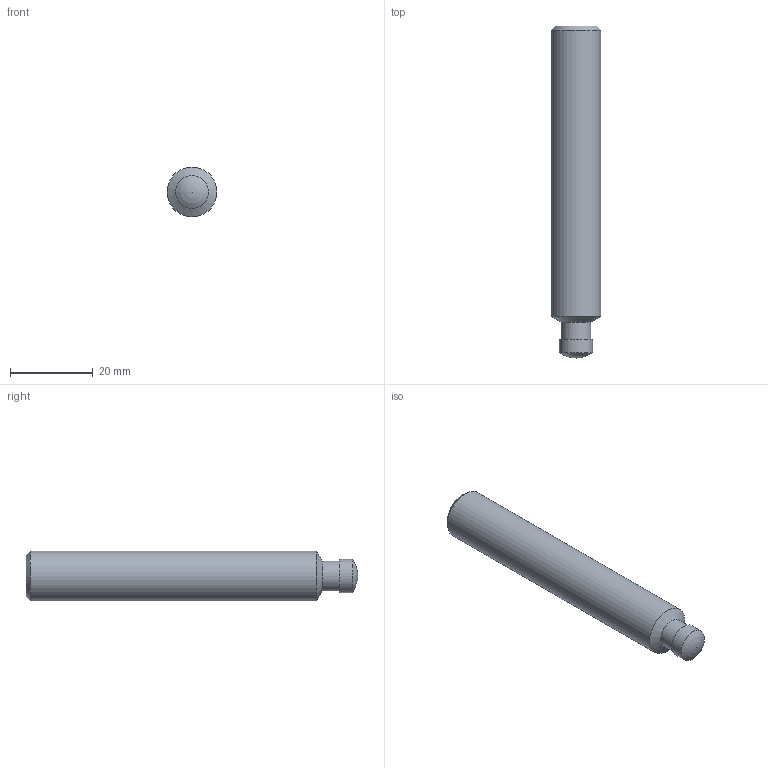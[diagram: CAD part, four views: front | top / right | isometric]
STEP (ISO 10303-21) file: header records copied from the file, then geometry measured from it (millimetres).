
FILE_DESCRIPTION( ( 'STEP AP203' ), '1' );
FILE_NAME( 'C:/Temp/Ganter_Step_05_03_2020/data/3_2/din6332/din6332_zb/Grub screw DIN 6332-M12-80-SKN-ZB.stp', '2020-03-13T05:16:36', ( 'License CC BY-ND 4.0' ), ( 'CADENAS' ), ' ', 'PARTsolutions', ' ' );
FILE_SCHEMA( ( 'CONFIG_CONTROL_DESIGN' ) );
Length unit declared in the file: millimetre
Products named in the file (1): _Grub screw DIN 6332-M12-80-SKN-ZB
Bounding box: 12 x 80 x 12 mm (x, y, z)
Volume: 8236 mm3; surface area: 3131.9 mm2
Topology: 1 solids, 1 shells, 15 faces, 33 edges, 21 vertices
Faces by surface type: plane 9, cylinder 3, cone 2, sphere 1
Full cylindrical faces by diameter (mm): 7.2 x1, 8 x1, 12 x1
Entity records: 410 total; most frequent: DIRECTION 64, CARTESIAN_POINT 61, ORIENTED_EDGE 50, EDGE_CURVE 25, AXIS2_PLACEMENT_3D 23, EDGE_LOOP 22, VERTEX_POINT 20, FACE_OUTER_BOUND 18
